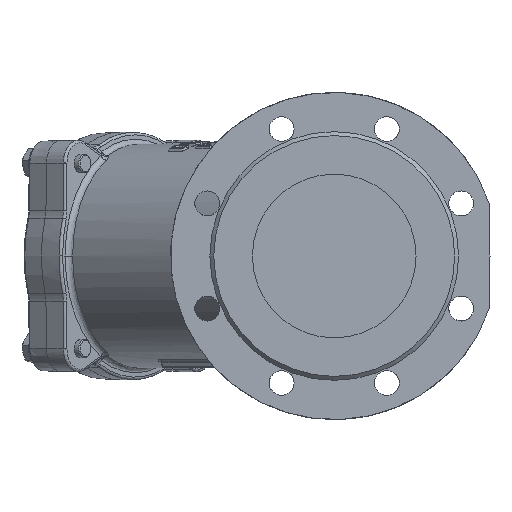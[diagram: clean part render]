
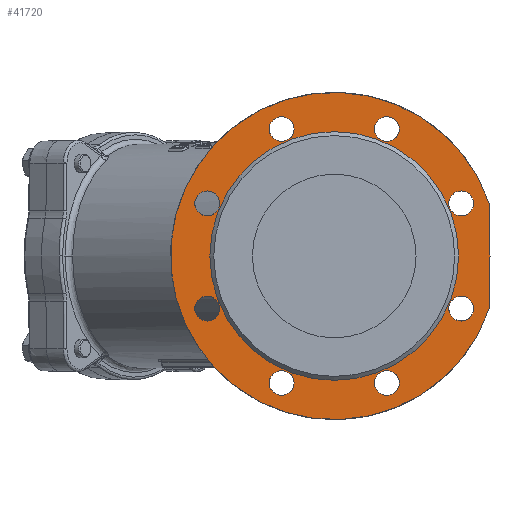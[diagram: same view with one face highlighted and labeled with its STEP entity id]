
A CAD part, left-side view. The second image highlights one B-rep face of the part: STEP entity #41720.
In plain terms, the highlighted planar face has unit normal (-1, 0, 0).
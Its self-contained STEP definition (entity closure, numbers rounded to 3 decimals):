
#759 = ORIENTED_EDGE ( 'NONE', *, *, #35341, .T. ) ;
#961 = DIRECTION ( 'NONE',  ( 0., 0., -1. ) ) ;
#1442 = CARTESIAN_POINT ( 'NONE',  ( -192., -95., 0. ) ) ;
#1932 = CARTESIAN_POINT ( 'NONE',  ( -192., -119.002, 0.105 ) ) ;
#2002 = DIRECTION ( 'NONE',  ( 0., 0., -1. ) ) ;
#2290 = EDGE_CURVE ( 'NONE', #8061, #19194, #3895, .T. ) ;
#2494 = DIRECTION ( 'NONE',  ( 0., 0., -1. ) ) ;
#3810 = VERTEX_POINT ( 'NONE', #26964 ) ;
#3895 = CIRCLE ( 'NONE', #37070, 125. ) ;
#4192 = ORIENTED_EDGE ( 'NONE', *, *, #15174, .F. ) ;
#4323 = AXIS2_PLACEMENT_3D ( 'NONE', #1442, #14568, #37946 ) ;
#4742 = DIRECTION ( 'NONE',  ( 0., 0., -1. ) ) ;
#4765 = VERTEX_POINT ( 'NONE', #31803 ) ;
#5606 = FACE_BOUND ( 'NONE', #42520, .T. ) ;
#5615 = CIRCLE ( 'NONE', #38782, 95. ) ;
#5769 = CARTESIAN_POINT ( 'NONE',  ( -192., -118.031, -41.155 ) ) ;
#5771 = DIRECTION ( 'NONE',  ( -1., 0., 0. ) ) ;
#6229 = DIRECTION ( 'NONE',  ( 1., 0., 0. ) ) ;
#6405 = LINE ( 'NONE', #1932, #42138 ) ;
#7343 = EDGE_LOOP ( 'NONE', ( #54535 ) ) ;
#7519 = CIRCLE ( 'NONE', #46349, 9.5 ) ;
#8061 = VERTEX_POINT ( 'NONE', #54939 ) ;
#8396 = DIRECTION ( 'NONE',  ( 0., 0., 1. ) ) ;
#8710 = DIRECTION ( 'NONE',  ( 1., 0., 0. ) ) ;
#9881 = DIRECTION ( 'NONE',  ( -1., 0., 0. ) ) ;
#10051 = CARTESIAN_POINT ( 'NONE',  ( -192., 40.182, 97.007 ) ) ;
#10103 = VERTEX_POINT ( 'NONE', #27926 ) ;
#10465 = EDGE_CURVE ( 'NONE', #10103, #10103, #23893, .T. ) ;
#10587 = CARTESIAN_POINT ( 'NONE',  ( -192., 97.007, -40.182 ) ) ;
#10656 = FACE_OUTER_BOUND ( 'NONE', #30955, .T. ) ;
#10688 = VERTEX_POINT ( 'NONE', #33529 ) ;
#10846 = CIRCLE ( 'NONE', #51560, 9.5 ) ;
#10994 = CARTESIAN_POINT ( 'NONE',  ( -192., 0., -95. ) ) ;
#11753 = VERTEX_POINT ( 'NONE', #17598 ) ;
#12873 = CARTESIAN_POINT ( 'NONE',  ( -192., -40.182, 97.007 ) ) ;
#14313 = EDGE_CURVE ( 'NONE', #4765, #4765, #42989, .T. ) ;
#14568 = DIRECTION ( 'NONE',  ( 1., 0., 0. ) ) ;
#14580 = CARTESIAN_POINT ( 'NONE',  ( -192., -118.309, -39.596 ) ) ;
#14931 = CARTESIAN_POINT ( 'NONE',  ( -192., -118.309, 39.596 ) ) ;
#15174 = EDGE_CURVE ( 'NONE', #11753, #32191, #6405, .T. ) ;
#16497 = AXIS2_PLACEMENT_3D ( 'NONE', #40202, #8710, #29609 ) ;
#17130 = AXIS2_PLACEMENT_3D ( 'NONE', #12873, #21460, #8396 ) ;
#17598 = CARTESIAN_POINT ( 'NONE',  ( -192., -119., 0. ) ) ;
#17945 = CARTESIAN_POINT ( 'NONE',  ( -192., -113.31, -39.509 ) ) ;
#18332 = ORIENTED_EDGE ( 'NONE', *, *, #10465, .T. ) ;
#19194 = VERTEX_POINT ( 'NONE', #5769 ) ;
#19308 = PLANE ( 'NONE',  #4323 ) ;
#19596 = FACE_BOUND ( 'NONE', #7343, .T. ) ;
#19799 = DIRECTION ( 'NONE',  ( 0., 0.017, -1. ) ) ;
#19826 = EDGE_LOOP ( 'NONE', ( #53727 ) ) ;
#20780 = CARTESIAN_POINT ( 'NONE',  ( -192., 97.007, 40.182 ) ) ;
#21460 = DIRECTION ( 'NONE',  ( -1., 0., 0. ) ) ;
#22142 = CIRCLE ( 'NONE', #38249, 9.5 ) ;
#22881 = ORIENTED_EDGE ( 'NONE', *, *, #25205, .F. ) ;
#23697 = FACE_BOUND ( 'NONE', #19826, .T. ) ;
#23708 = CIRCLE ( 'NONE', #31320, 9.5 ) ;
#23750 = CIRCLE ( 'NONE', #17130, 9.5 ) ;
#23893 = CIRCLE ( 'NONE', #54188, 9.5 ) ;
#24566 = CARTESIAN_POINT ( 'NONE',  ( -192., -40.182, -97.007 ) ) ;
#25102 = DIRECTION ( 'NONE',  ( 0., 0., 1. ) ) ;
#25205 = EDGE_CURVE ( 'NONE', #10688, #10688, #41229, .T. ) ;
#25792 = CARTESIAN_POINT ( 'NONE',  ( -192., 97.007, 49.682 ) ) ;
#26013 = EDGE_LOOP ( 'NONE', ( #45925 ) ) ;
#26964 = CARTESIAN_POINT ( 'NONE',  ( -192., -40.182, 106.507 ) ) ;
#27305 = CARTESIAN_POINT ( 'NONE',  ( -192., -97.007, -40.182 ) ) ;
#27771 = DIRECTION ( 'NONE',  ( 0., 0., -1. ) ) ;
#27844 = EDGE_CURVE ( 'NONE', #11753, #46752, #37900, .T. ) ;
#27926 = CARTESIAN_POINT ( 'NONE',  ( -192., -40.182, -106.507 ) ) ;
#28159 = DIRECTION ( 'NONE',  ( 1., 0., 0. ) ) ;
#28566 = EDGE_CURVE ( 'NONE', #29386, #29386, #5615, .T. ) ;
#28767 = FACE_BOUND ( 'NONE', #53359, .T. ) ;
#29325 = VECTOR ( 'NONE', #51225, 1000. ) ;
#29386 = VERTEX_POINT ( 'NONE', #10994 ) ;
#29523 = CARTESIAN_POINT ( 'NONE',  ( -192., 0., 0. ) ) ;
#29609 = DIRECTION ( 'NONE',  ( 0., 0., 1. ) ) ;
#29755 = EDGE_CURVE ( 'NONE', #46861, #46861, #7519, .T. ) ;
#30955 = EDGE_LOOP ( 'NONE', ( #54862, #759, #4192, #42954, #53148 ) ) ;
#31125 = VERTEX_POINT ( 'NONE', #44464 ) ;
#31162 = DIRECTION ( 'NONE',  ( 0., 0., -1. ) ) ;
#31320 = AXIS2_PLACEMENT_3D ( 'NONE', #27305, #45379, #4742 ) ;
#31803 = CARTESIAN_POINT ( 'NONE',  ( -192., 97.007, -49.682 ) ) ;
#32053 = DIRECTION ( 'NONE',  ( -1., 0., 0. ) ) ;
#32191 = VERTEX_POINT ( 'NONE', #14580 ) ;
#32596 = VERTEX_POINT ( 'NONE', #41210 ) ;
#32912 = FACE_BOUND ( 'NONE', #26013, .T. ) ;
#33373 = DIRECTION ( 'NONE',  ( -1., 0., 0. ) ) ;
#33529 = CARTESIAN_POINT ( 'NONE',  ( -192., -97.007, 49.682 ) ) ;
#34577 = DIRECTION ( 'NONE',  ( -1., 0., 0. ) ) ;
#34691 = VERTEX_POINT ( 'NONE', #25792 ) ;
#35341 = EDGE_CURVE ( 'NONE', #19194, #32191, #42945, .T. ) ;
#35493 = AXIS2_PLACEMENT_3D ( 'NONE', #48500, #34577, #25102 ) ;
#35868 = EDGE_CURVE ( 'NONE', #8061, #46752, #45843, .T. ) ;
#36530 = EDGE_LOOP ( 'NONE', ( #40155 ) ) ;
#37070 = AXIS2_PLACEMENT_3D ( 'NONE', #29523, #33373, #2494 ) ;
#37813 = CARTESIAN_POINT ( 'NONE',  ( -192., 40.182, -97.007 ) ) ;
#37900 = LINE ( 'NONE', #55385, #29325 ) ;
#37946 = DIRECTION ( 'NONE',  ( 0., 0., -1. ) ) ;
#38187 = DIRECTION ( 'NONE',  ( -1., 0., 0. ) ) ;
#38249 = AXIS2_PLACEMENT_3D ( 'NONE', #20780, #6229, #56645 ) ;
#38782 = AXIS2_PLACEMENT_3D ( 'NONE', #44797, #32053, #31162 ) ;
#40155 = ORIENTED_EDGE ( 'NONE', *, *, #29755, .F. ) ;
#40202 = CARTESIAN_POINT ( 'NONE',  ( -192., -113.31, 39.509 ) ) ;
#41210 = CARTESIAN_POINT ( 'NONE',  ( -192., 40.182, 106.507 ) ) ;
#41229 = CIRCLE ( 'NONE', #35493, 9.5 ) ;
#41720 = ADVANCED_FACE ( 'NONE', ( #5606, #10656, #41817, #28767, #32912, #47131, #23697, #56021, #42122, #19596 ), #19308, .F. ) ;
#41817 = FACE_BOUND ( 'NONE', #36530, .T. ) ;
#42122 = FACE_BOUND ( 'NONE', #55869, .T. ) ;
#42138 = VECTOR ( 'NONE', #19799, 1000. ) ;
#42520 = EDGE_LOOP ( 'NONE', ( #50198 ) ) ;
#42683 = DIRECTION ( 'NONE',  ( 1., 0., 0. ) ) ;
#42937 = DIRECTION ( 'NONE',  ( 0., 0., -1. ) ) ;
#42945 = CIRCLE ( 'NONE', #48583, 5. ) ;
#42954 = ORIENTED_EDGE ( 'NONE', *, *, #27844, .T. ) ;
#42989 = CIRCLE ( 'NONE', #48670, 9.5 ) ;
#43833 = EDGE_LOOP ( 'NONE', ( #49579 ) ) ;
#44464 = CARTESIAN_POINT ( 'NONE',  ( -192., -97.007, -49.682 ) ) ;
#44797 = CARTESIAN_POINT ( 'NONE',  ( -192., 0., 0. ) ) ;
#45379 = DIRECTION ( 'NONE',  ( 1., 0., 0. ) ) ;
#45843 = CIRCLE ( 'NONE', #16497, 5. ) ;
#45925 = ORIENTED_EDGE ( 'NONE', *, *, #47769, .T. ) ;
#46232 = DIRECTION ( 'NONE',  ( 0., 0., 1. ) ) ;
#46349 = AXIS2_PLACEMENT_3D ( 'NONE', #37813, #5771, #27771 ) ;
#46752 = VERTEX_POINT ( 'NONE', #14931 ) ;
#46861 = VERTEX_POINT ( 'NONE', #52493 ) ;
#47131 = FACE_BOUND ( 'NONE', #43833, .T. ) ;
#47769 = EDGE_CURVE ( 'NONE', #31125, #31125, #23708, .T. ) ;
#47976 = ORIENTED_EDGE ( 'NONE', *, *, #48128, .F. ) ;
#48128 = EDGE_CURVE ( 'NONE', #3810, #3810, #23750, .T. ) ;
#48500 = CARTESIAN_POINT ( 'NONE',  ( -192., -97.007, 40.182 ) ) ;
#48583 = AXIS2_PLACEMENT_3D ( 'NONE', #17945, #9881, #961 ) ;
#48670 = AXIS2_PLACEMENT_3D ( 'NONE', #10587, #38187, #42937 ) ;
#49579 = ORIENTED_EDGE ( 'NONE', *, *, #14313, .F. ) ;
#50198 = ORIENTED_EDGE ( 'NONE', *, *, #28566, .F. ) ;
#51225 = DIRECTION ( 'NONE',  ( 0., 0.017, 1. ) ) ;
#51560 = AXIS2_PLACEMENT_3D ( 'NONE', #10051, #28159, #46232 ) ;
#52493 = CARTESIAN_POINT ( 'NONE',  ( -192., 40.182, -106.507 ) ) ;
#53148 = ORIENTED_EDGE ( 'NONE', *, *, #35868, .F. ) ;
#53226 = EDGE_CURVE ( 'NONE', #34691, #34691, #22142, .T. ) ;
#53359 = EDGE_LOOP ( 'NONE', ( #18332 ) ) ;
#53727 = ORIENTED_EDGE ( 'NONE', *, *, #55503, .T. ) ;
#54188 = AXIS2_PLACEMENT_3D ( 'NONE', #24566, #42683, #2002 ) ;
#54211 = EDGE_LOOP ( 'NONE', ( #47976 ) ) ;
#54535 = ORIENTED_EDGE ( 'NONE', *, *, #53226, .T. ) ;
#54862 = ORIENTED_EDGE ( 'NONE', *, *, #2290, .T. ) ;
#54939 = CARTESIAN_POINT ( 'NONE',  ( -192., -118.031, 41.155 ) ) ;
#55385 = CARTESIAN_POINT ( 'NONE',  ( -192., -119.002, -0.105 ) ) ;
#55503 = EDGE_CURVE ( 'NONE', #32596, #32596, #10846, .T. ) ;
#55869 = EDGE_LOOP ( 'NONE', ( #22881 ) ) ;
#56021 = FACE_BOUND ( 'NONE', #54211, .T. ) ;
#56645 = DIRECTION ( 'NONE',  ( 0., 0., 1. ) ) ;
